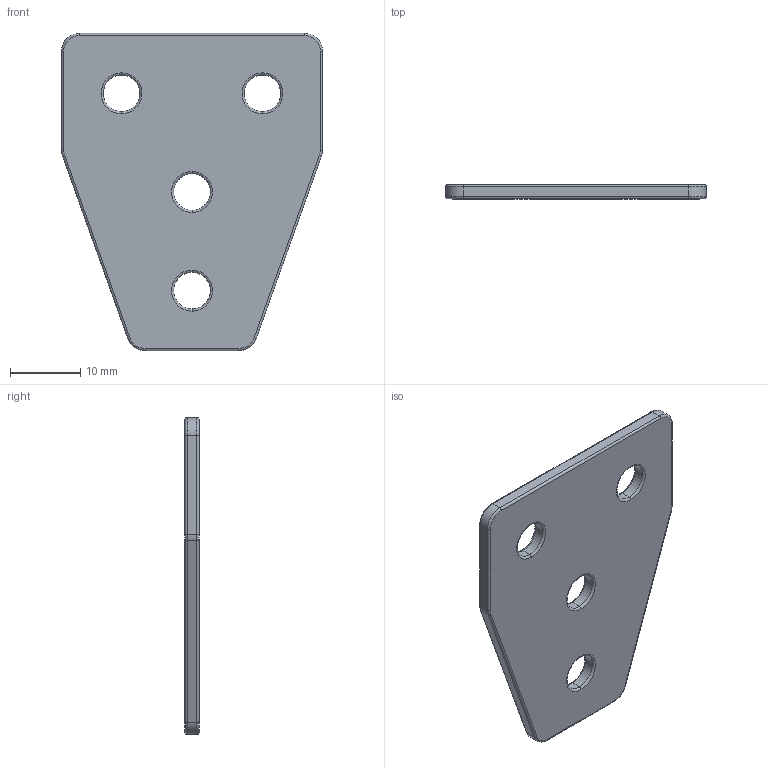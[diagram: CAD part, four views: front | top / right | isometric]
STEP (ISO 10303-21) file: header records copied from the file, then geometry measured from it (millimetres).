
FILE_DESCRIPTION (( 'STEP AP203' ), '1' );
FILE_NAME ('ﾒ-4-ﾓ-20.STEP', '2016-07-22T09:21:24', ( '' ), ( '' ), 'SwSTEP 2.0', 'SolidWorks 2014', '' );
FILE_SCHEMA (( 'CONFIG_CONTROL_DESIGN' ));
Length unit declared in the file: millimetre
Products named in the file (1): ﾒ-4-ﾓ-20
Bounding box: 37 x 2 x 45 mm (x, y, z)
Volume: 2584.1 mm3; surface area: 2957.9 mm2
Topology: 1 solids, 1 shells, 62 faces, 140 edges, 80 vertices
Faces by surface type: torus 28, cylinder 26, plane 8
Entity records: 1833 total; most frequent: DIRECTION 362, CARTESIAN_POINT 283, ORIENTED_EDGE 280, AXIS2_PLACEMENT_3D 159, EDGE_CURVE 140, CIRCLE 96, VERTEX_POINT 80, EDGE_LOOP 70
